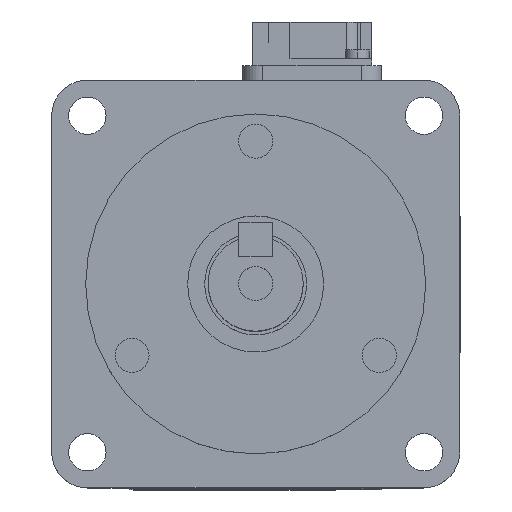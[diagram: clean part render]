
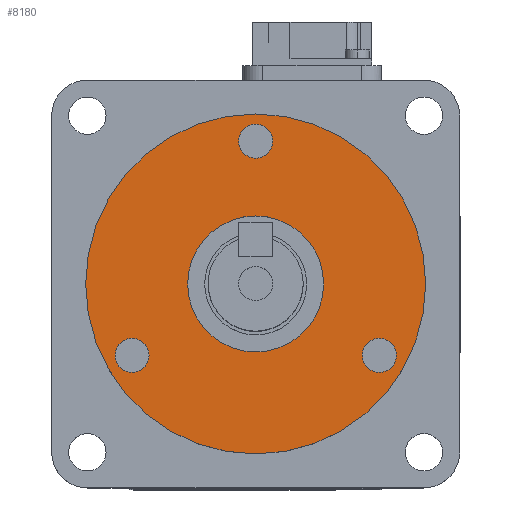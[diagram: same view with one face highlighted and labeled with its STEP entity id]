
A CAD part, top view. The second image highlights one B-rep face of the part: STEP entity #8180.
In plain terms, the highlighted planar face has unit normal (0, 0, 1).
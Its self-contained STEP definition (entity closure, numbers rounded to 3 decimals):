
#95 = VERTEX_POINT ( 'NONE', #5782 ) ;
#143 = EDGE_CURVE ( 'NONE', #153, #95, #5831, .T. ) ;
#153 = VERTEX_POINT ( 'NONE', #5873 ) ;
#219 = EDGE_CURVE ( 'NONE', #223, #20960, #5958, .T. ) ;
#223 = VERTEX_POINT ( 'NONE', #5952 ) ;
#5782 = CARTESIAN_POINT ( 'NONE',  ( 20.687, -10.5, 3. ) ) ;
#5827 = DIRECTION ( 'NONE',  ( -0.5, -0.866, 0. ) ) ;
#5828 = DIRECTION ( 'NONE',  ( 0., 0., 1. ) ) ;
#5829 = CARTESIAN_POINT ( 'NONE',  ( 18.187, -10.5, 3. ) ) ;
#5830 = AXIS2_PLACEMENT_3D ( 'NONE', #5829, #5828, #5827 ) ;
#5831 = CIRCLE ( 'NONE', #5830, 2.5 ) ;
#5873 = CARTESIAN_POINT ( 'NONE',  ( 15.687, -10.5, 3. ) ) ;
#5952 = CARTESIAN_POINT ( 'NONE',  ( -20.687, -10.5, 3. ) ) ;
#5954 = DIRECTION ( 'NONE',  ( -0.5, 0.866, 0. ) ) ;
#5955 = DIRECTION ( 'NONE',  ( 0., 0., 1. ) ) ;
#5956 = CARTESIAN_POINT ( 'NONE',  ( -18.187, -10.5, 3. ) ) ;
#5957 = AXIS2_PLACEMENT_3D ( 'NONE', #5956, #5955, #5954 ) ;
#5958 = CIRCLE ( 'NONE', #5957, 2.5 ) ;
#8011 = ORIENTED_EDGE ( 'NONE', *, *, #8017, .F. ) ;
#8012 = ORIENTED_EDGE ( 'NONE', *, *, #17907, .F. ) ;
#8017 = EDGE_CURVE ( 'NONE', #20802, #17642, #17480, .T. ) ;
#8169 = EDGE_LOOP ( 'NONE', ( #8175, #20876 ) ) ;
#8170 = EDGE_CURVE ( 'NONE', #95, #153, #17694, .T. ) ;
#8175 = ORIENTED_EDGE ( 'NONE', *, *, #8170, .F. ) ;
#8180 = ADVANCED_FACE ( 'NONE', ( #17743, #17742, #17741, #17740, #17739 ), #17748, .T. ) ;
#8254 = EDGE_LOOP ( 'NONE', ( #8012, #8011 ) ) ;
#8272 = ORIENTED_EDGE ( 'NONE', *, *, #11822, .T. ) ;
#8277 = EDGE_CURVE ( 'NONE', #11459, #8916, #17912, .T. ) ;
#8288 = ORIENTED_EDGE ( 'NONE', *, *, #8277, .T. ) ;
#8289 = EDGE_LOOP ( 'NONE', ( #8288, #8272 ) ) ;
#8293 = ORIENTED_EDGE ( 'NONE', *, *, #8790, .F. ) ;
#8317 = EDGE_CURVE ( 'NONE', #8750, #8777, #17974, .T. ) ;
#8333 = EDGE_LOOP ( 'NONE', ( #8335, #8293 ) ) ;
#8335 = ORIENTED_EDGE ( 'NONE', *, *, #8317, .F. ) ;
#8750 = VERTEX_POINT ( 'NONE', #18707 ) ;
#8777 = VERTEX_POINT ( 'NONE', #18725 ) ;
#8790 = EDGE_CURVE ( 'NONE', #8777, #8750, #18758, .T. ) ;
#8916 = VERTEX_POINT ( 'NONE', #18977 ) ;
#11459 = VERTEX_POINT ( 'NONE', #19759 ) ;
#11822 = EDGE_CURVE ( 'NONE', #8916, #11459, #19747, .T. ) ;
#17476 = DIRECTION ( 'NONE',  ( -1., 0., 0. ) ) ;
#17477 = DIRECTION ( 'NONE',  ( 0., 0., -1. ) ) ;
#17478 = CARTESIAN_POINT ( 'NONE',  ( 0., 0., 3. ) ) ;
#17479 = AXIS2_PLACEMENT_3D ( 'NONE', #17478, #17477, #17476 ) ;
#17480 = CIRCLE ( 'NONE', #17479, 25. ) ;
#17642 = VERTEX_POINT ( 'NONE', #19941 ) ;
#17690 = DIRECTION ( 'NONE',  ( -0.5, -0.866, 0. ) ) ;
#17691 = DIRECTION ( 'NONE',  ( 0., 0., 1. ) ) ;
#17692 = CARTESIAN_POINT ( 'NONE',  ( 18.187, -10.5, 3. ) ) ;
#17693 = AXIS2_PLACEMENT_3D ( 'NONE', #17692, #17691, #17690 ) ;
#17694 = CIRCLE ( 'NONE', #17693, 2.5 ) ;
#17735 = DIRECTION ( 'NONE',  ( 1., 0., 0. ) ) ;
#17736 = DIRECTION ( 'NONE',  ( 0., 0., 1. ) ) ;
#17737 = CARTESIAN_POINT ( 'NONE',  ( 0., 25., 3. ) ) ;
#17738 = AXIS2_PLACEMENT_3D ( 'NONE', #17737, #17736, #17735 ) ;
#17739 = FACE_OUTER_BOUND ( 'NONE', #8254, .T. ) ;
#17740 = FACE_BOUND ( 'NONE', #8289, .T. ) ;
#17741 = FACE_BOUND ( 'NONE', #8333, .T. ) ;
#17742 = FACE_BOUND ( 'NONE', #20853, .T. ) ;
#17743 = FACE_BOUND ( 'NONE', #8169, .T. ) ;
#17748 = PLANE ( 'NONE',  #17738 ) ;
#17907 = EDGE_CURVE ( 'NONE', #17642, #20802, #20000, .T. ) ;
#17908 = DIRECTION ( 'NONE',  ( -1., 0., 0. ) ) ;
#17909 = DIRECTION ( 'NONE',  ( 0., 0., -1. ) ) ;
#17910 = CARTESIAN_POINT ( 'NONE',  ( 0., 0., 3. ) ) ;
#17911 = AXIS2_PLACEMENT_3D ( 'NONE', #17910, #17909, #17908 ) ;
#17912 = CIRCLE ( 'NONE', #17911, 10. ) ;
#17970 = DIRECTION ( 'NONE',  ( 1., 0., 0. ) ) ;
#17971 = DIRECTION ( 'NONE',  ( 0., 0., 1. ) ) ;
#17972 = CARTESIAN_POINT ( 'NONE',  ( 0., 21., 3. ) ) ;
#17973 = AXIS2_PLACEMENT_3D ( 'NONE', #17972, #17971, #17970 ) ;
#17974 = CIRCLE ( 'NONE', #17973, 2.5 ) ;
#18707 = CARTESIAN_POINT ( 'NONE',  ( 2.5, 21., 3. ) ) ;
#18725 = CARTESIAN_POINT ( 'NONE',  ( -2.5, 21., 3. ) ) ;
#18754 = DIRECTION ( 'NONE',  ( 1., 0., 0. ) ) ;
#18755 = DIRECTION ( 'NONE',  ( 0., 0., 1. ) ) ;
#18756 = CARTESIAN_POINT ( 'NONE',  ( 0., 21., 3. ) ) ;
#18757 = AXIS2_PLACEMENT_3D ( 'NONE', #18756, #18755, #18754 ) ;
#18758 = CIRCLE ( 'NONE', #18757, 2.5 ) ;
#18977 = CARTESIAN_POINT ( 'NONE',  ( 10., 0., 3. ) ) ;
#19744 = DIRECTION ( 'NONE',  ( 0., 0., -1. ) ) ;
#19745 = CARTESIAN_POINT ( 'NONE',  ( 0., 0., 3. ) ) ;
#19746 = AXIS2_PLACEMENT_3D ( 'NONE', #19745, #19744, #19808 ) ;
#19747 = CIRCLE ( 'NONE', #19746, 10. ) ;
#19759 = CARTESIAN_POINT ( 'NONE',  ( -10., 0., 3. ) ) ;
#19808 = DIRECTION ( 'NONE',  ( -1., 0., 0. ) ) ;
#19941 = CARTESIAN_POINT ( 'NONE',  ( -25., 0., 3. ) ) ;
#19996 = DIRECTION ( 'NONE',  ( -1., 0., 0. ) ) ;
#19997 = DIRECTION ( 'NONE',  ( 0., 0., -1. ) ) ;
#19998 = CARTESIAN_POINT ( 'NONE',  ( 0., 0., 3. ) ) ;
#19999 = AXIS2_PLACEMENT_3D ( 'NONE', #19998, #19997, #19996 ) ;
#20000 = CIRCLE ( 'NONE', #19999, 25. ) ;
#20115 = CARTESIAN_POINT ( 'NONE',  ( 25., 0., 3. ) ) ;
#20158 = DIRECTION ( 'NONE',  ( -0.5, 0.866, 0. ) ) ;
#20159 = DIRECTION ( 'NONE',  ( 0., 0., 1. ) ) ;
#20160 = CARTESIAN_POINT ( 'NONE',  ( -18.187, -10.5, 3. ) ) ;
#20161 = AXIS2_PLACEMENT_3D ( 'NONE', #20160, #20159, #20158 ) ;
#20162 = CIRCLE ( 'NONE', #20161, 2.5 ) ;
#20413 = CARTESIAN_POINT ( 'NONE',  ( -15.687, -10.5, 3. ) ) ;
#20800 = ORIENTED_EDGE ( 'NONE', *, *, #219, .F. ) ;
#20802 = VERTEX_POINT ( 'NONE', #20115 ) ;
#20819 = EDGE_CURVE ( 'NONE', #20960, #223, #20162, .T. ) ;
#20824 = ORIENTED_EDGE ( 'NONE', *, *, #20819, .F. ) ;
#20853 = EDGE_LOOP ( 'NONE', ( #20824, #20800 ) ) ;
#20876 = ORIENTED_EDGE ( 'NONE', *, *, #143, .F. ) ;
#20960 = VERTEX_POINT ( 'NONE', #20413 ) ;
